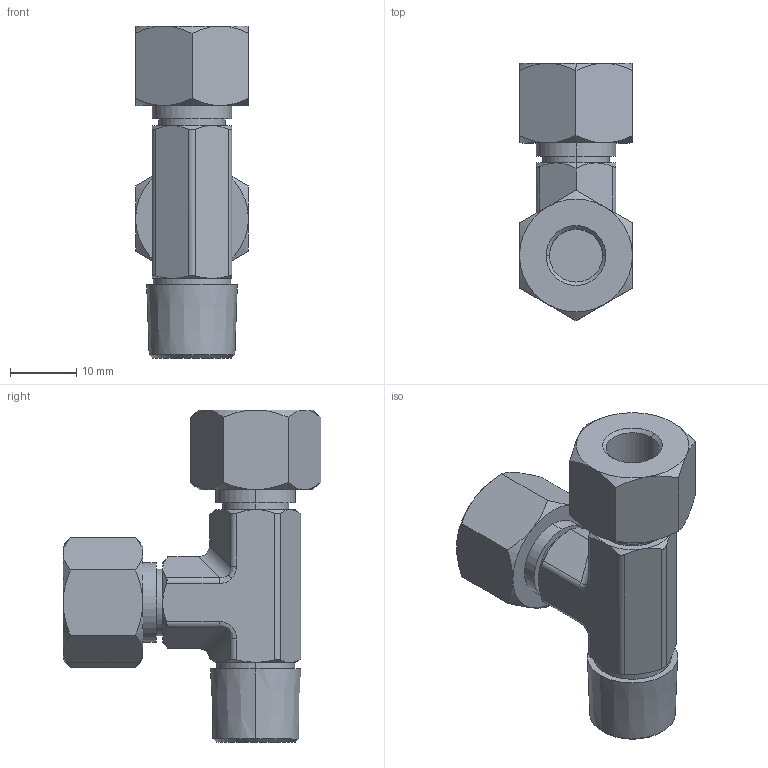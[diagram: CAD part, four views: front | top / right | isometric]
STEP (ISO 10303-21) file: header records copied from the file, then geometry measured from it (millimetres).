
FILE_DESCRIPTION (( 'STEP AP203' ), '1' );
FILE_NAME ('DXH34L0008 N2.STEP', '2018-10-28T16:37:54', ( '' ), ( '' ), 'SwSTEP 2.0', 'SolidWorks 2013', '' );
FILE_SCHEMA (( 'CONFIG_CONTROL_DESIGN' ));
Length unit declared in the file: millimetre
Products named in the file (1): DXH34L0008 N2
Bounding box: 17 x 38.81 x 50 mm (x, y, z)
Volume: 9406.5 mm3; surface area: 6151.8 mm2
Topology: 3 solids, 3 shells, 136 faces, 302 edges, 179 vertices
Faces by surface type: cone 58, plane 40, cylinder 32, bspline 6
Entity records: 4277 total; most frequent: CARTESIAN_POINT 1419, ORIENTED_EDGE 604, DIRECTION 536, EDGE_CURVE 302, AXIS2_PLACEMENT_3D 228, VERTEX_POINT 179, EDGE_LOOP 147, FACE_OUTER_BOUND 136
